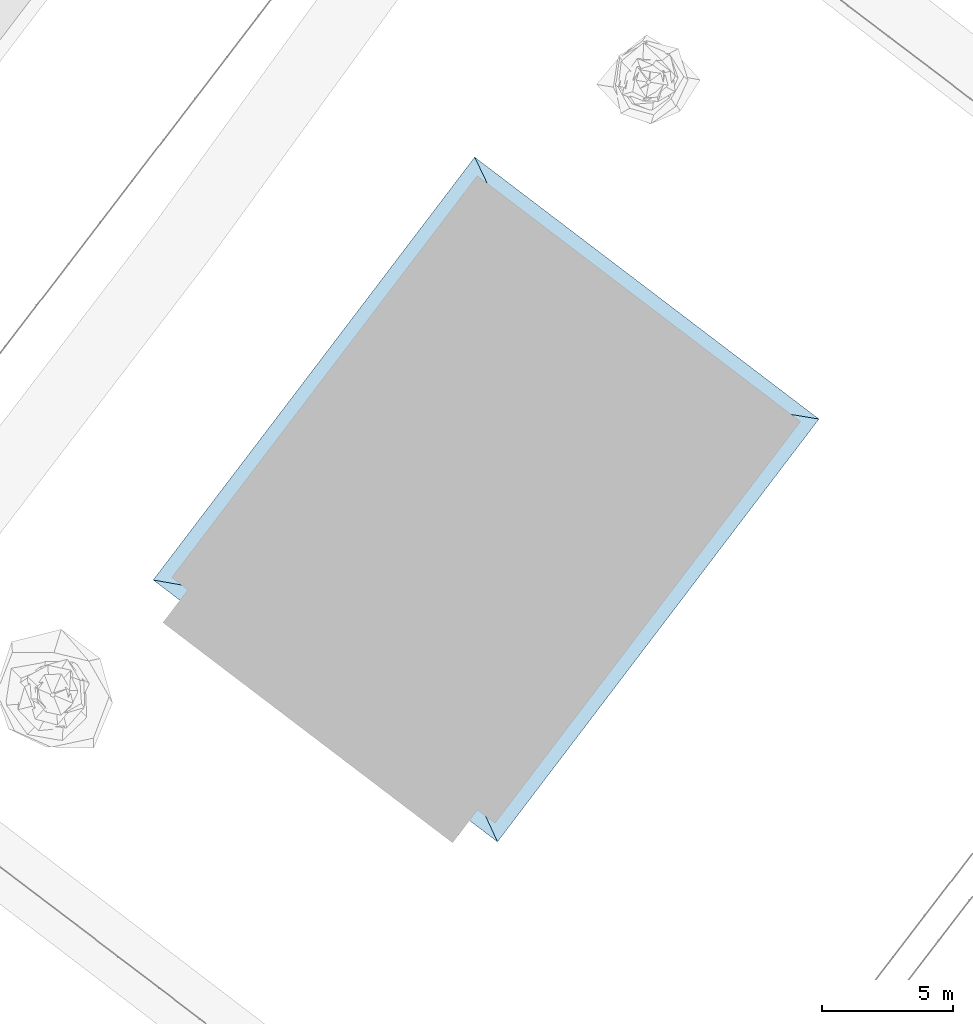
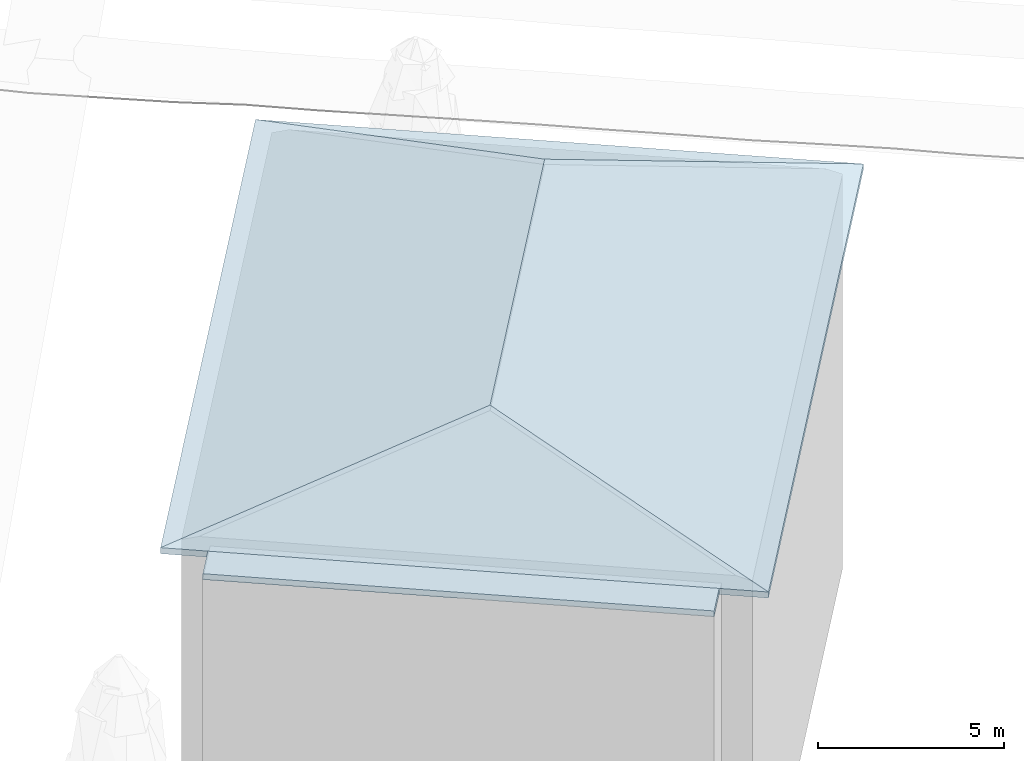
# Not in any storey, part 10 of 88: 1 roof.
"""IFC4 building model written with IfcOpenShell, lengths in metres."""

from ifc_helpers import new_model, si_unit, origin_with_axes, place, context, subcontext, project, spatial, faceted_brep, element, save


model = new_model("IFC4")

# Units and contexts
model_context = context("Model", 3, precision=1e-05, world=origin_with_axes())
body_context = subcontext(model_context, "Body", "Model", "MODEL_VIEW")
ifc_project = project(units=[si_unit("LENGTHUNIT", "METRE"), si_unit("AREAUNIT", "SQUARE_METRE"), si_unit("VOLUMEUNIT", "CUBIC_METRE"), si_unit("PLANEANGLEUNIT", "RADIAN")], contexts=[model_context])

# Sites, building
site_1_placement = place(None, origin_with_axes())
site_1 = spatial("IfcSite", under=ifc_project, at=site_1_placement, Name="CH907857693633", CompositionType="ELEMENT")
site_2_placement = place(None, origin_with_axes())
site_2 = spatial("IfcSite", under=site_1, at=site_2_placement, Name="Buildings", CompositionType="ELEMENT")
building_placement = place(None, origin_with_axes())
building = spatial("IfcBuilding", under=site_2, at=building_placement, Name="Building_6D479F88", CompositionType="ELEMENT")

# Roof
roof_placement = place(building_placement, origin_with_axes())
element("IfcRoof", 1, at=roof_placement, inside=building, Name="Building_6D479F88_Roof", PredefinedType="NOTDEFINED", context=body_context, shape_type="Brep", body=[
    faceted_brep([(92.445000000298, 161.032999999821, 17.6897877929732), (86.9210000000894, 165.232999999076, 17.6898877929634), (86.5969999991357, 164.80700000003, 17.6898877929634), (91.7989999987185, 160.182999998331, 17.6897877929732), (86.5969999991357, 164.80700000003, 17.6898877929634), (86.2749999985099, 164.383000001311, 17.6898877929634), (80.7509999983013, 168.583000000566, 17.6898877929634), (86.2749999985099, 164.383000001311, 17.6898877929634), (86.5969999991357, 164.80700000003, 17.6898877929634), (87.9730000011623, 166.614999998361, 17.6898877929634), (83.285000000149, 171.914999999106, 17.6898877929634), (81.6110000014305, 169.717000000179, 17.6898877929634), (81.6110000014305, 169.717000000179, 17.6898877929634), (87.1350000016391, 165.515000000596, 17.6898877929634), (87.9730000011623, 166.614999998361, 17.6898877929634), (94.3330000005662, 163.515000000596, 17.6897877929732), (88.8090000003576, 167.714999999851, 17.6898877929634), (87.9730000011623, 166.614999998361, 17.6898877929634), (86.5969999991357, 164.80700000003, 17.6898877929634), (81.3969999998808, 169.432999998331, 17.6898877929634), (80.7509999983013, 168.583000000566, 17.6898877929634), (83.285000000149, 171.914999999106, 17.6898877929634), (87.9730000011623, 166.614999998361, 17.6898877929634), (88.8090000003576, 167.714999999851, 17.6898877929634), (87.9730000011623, 166.614999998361, 17.6898877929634), (92.6590000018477, 161.315000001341, 17.6897877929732), (94.3330000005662, 163.515000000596, 17.6897877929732), (86.5969999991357, 164.80700000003, 17.6898877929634), (91.7989999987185, 160.182999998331, 17.6897877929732), (92.445000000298, 161.032999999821, 17.6897877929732), (92.6590000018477, 161.315000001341, 17.6897877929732), (87.9730000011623, 166.614999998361, 17.6898877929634), (87.1350000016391, 165.515000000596, 17.6898877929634), (81.3969999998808, 169.432999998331, 17.6898877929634), (86.5969999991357, 164.80700000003, 17.6898877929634), (86.9210000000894, 165.232999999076, 17.6898877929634), (88.8090000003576, 167.714999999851, 17.5918877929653), (94.3330000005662, 163.515000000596, 17.491887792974), (88.8090000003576, 167.714999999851, 17.491887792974), (88.8090000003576, 167.714999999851, 17.5918877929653), (88.8090000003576, 167.714999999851, 17.6898877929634), (94.3330000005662, 163.515000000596, 17.6897877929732), (94.3330000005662, 163.515000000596, 17.491887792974), (88.8090000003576, 167.714999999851, 17.5918877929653), (94.3330000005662, 163.515000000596, 17.6897877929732), (88.8090000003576, 167.714999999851, 17.5918877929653), (83.285000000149, 171.914999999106, 17.6898877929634), (88.8090000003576, 167.714999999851, 17.6898877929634), (83.285000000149, 171.914999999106, 17.6898877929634), (88.8090000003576, 167.714999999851, 17.5918877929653), (83.285000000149, 171.914999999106, 17.491887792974), (88.8090000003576, 167.714999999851, 17.5918877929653), (88.8090000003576, 167.714999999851, 17.491887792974), (83.285000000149, 171.914999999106, 17.491887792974), (81.3969999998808, 169.432999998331, 17.491887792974), (81.6110000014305, 169.717000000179, 17.6898877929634), (83.285000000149, 171.914999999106, 17.491887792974), (81.6110000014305, 169.717000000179, 17.6898877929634), (83.285000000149, 171.914999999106, 17.6898877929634), (83.285000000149, 171.914999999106, 17.491887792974), (80.7509999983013, 168.583000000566, 17.6898877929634), (81.3969999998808, 169.432999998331, 17.6898877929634), (80.7509999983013, 168.583000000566, 17.491887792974), (81.3969999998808, 169.432999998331, 17.491887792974), (80.7509999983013, 168.583000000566, 17.491887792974), (81.3969999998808, 169.432999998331, 17.6898877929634), (86.2749999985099, 164.383000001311, 17.491887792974), (86.2749999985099, 164.383000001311, 17.5918877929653), (80.7509999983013, 168.583000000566, 17.491887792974), (80.7509999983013, 168.583000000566, 17.6898877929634), (86.2749999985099, 164.383000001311, 17.5918877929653), (86.2749999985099, 164.383000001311, 17.6898877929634), (91.7989999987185, 160.182999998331, 17.491887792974), (86.2749999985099, 164.383000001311, 17.5918877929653), (86.2749999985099, 164.383000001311, 17.491887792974), (86.2749999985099, 164.383000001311, 17.5918877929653), (80.7509999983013, 168.583000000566, 17.6898877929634), (80.7509999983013, 168.583000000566, 17.491887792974), (86.2749999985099, 164.383000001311, 17.6898877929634), (86.2749999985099, 164.383000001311, 17.5918877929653), (91.7989999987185, 160.182999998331, 17.6897877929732), (86.2749999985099, 164.383000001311, 17.5918877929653), (91.7989999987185, 160.182999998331, 17.491887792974), (91.7989999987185, 160.182999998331, 17.6897877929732), (91.7989999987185, 160.182999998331, 17.491887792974), (92.445000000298, 161.032999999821, 17.491887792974), (92.445000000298, 161.032999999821, 17.6897877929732), (92.445000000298, 161.032999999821, 17.6897877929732), (91.7989999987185, 160.182999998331, 17.6897877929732), (91.7989999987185, 160.182999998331, 17.491887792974), (94.3330000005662, 163.515000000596, 17.491887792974), (92.6590000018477, 161.315000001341, 17.6897877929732), (92.445000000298, 161.032999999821, 17.491887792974), (94.3330000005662, 163.515000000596, 17.6897877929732), (92.6590000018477, 161.315000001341, 17.6897877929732), (94.3330000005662, 163.515000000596, 17.491887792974), (91.7989999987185, 160.182999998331, 17.491887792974), (86.5969999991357, 164.80700000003, 17.491887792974), (92.445000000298, 161.032999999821, 17.491887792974), (86.9210000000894, 165.232999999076, 17.491887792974), (81.3969999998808, 169.432999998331, 17.491887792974), (87.8649999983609, 166.473000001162, 17.491887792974), (87.8649999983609, 166.473000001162, 17.491887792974), (92.445000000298, 161.032999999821, 17.491887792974), (86.9210000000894, 165.232999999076, 17.491887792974), (88.8090000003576, 167.714999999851, 17.491887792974), (94.3330000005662, 163.515000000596, 17.491887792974), (87.8649999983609, 166.473000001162, 17.491887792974), (86.5969999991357, 164.80700000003, 17.491887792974), (91.7989999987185, 160.182999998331, 17.491887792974), (86.2749999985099, 164.383000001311, 17.491887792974), (87.8649999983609, 166.473000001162, 17.491887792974), (83.285000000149, 171.914999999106, 17.491887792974), (88.8090000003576, 167.714999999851, 17.491887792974), (86.2749999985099, 164.383000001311, 17.491887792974), (80.7509999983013, 168.583000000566, 17.491887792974), (86.5969999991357, 164.80700000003, 17.491887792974), (86.5969999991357, 164.80700000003, 17.491887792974), (81.3969999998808, 169.432999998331, 17.491887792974), (86.9210000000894, 165.232999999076, 17.491887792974), (86.9210000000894, 165.232999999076, 17.491887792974), (92.445000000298, 161.032999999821, 17.491887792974), (86.5969999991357, 164.80700000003, 17.491887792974), (83.285000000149, 171.914999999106, 17.491887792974), (87.8649999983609, 166.473000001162, 17.491887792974), (81.3969999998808, 169.432999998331, 17.491887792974), (92.445000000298, 161.032999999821, 17.491887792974), (87.8649999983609, 166.473000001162, 17.491887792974), (94.3330000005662, 163.515000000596, 17.491887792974), (81.3969999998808, 169.432999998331, 17.491887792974), (86.5969999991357, 164.80700000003, 17.491887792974), (80.7509999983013, 168.583000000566, 17.491887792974), (80.3790000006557, 170.208999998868, 17.6898877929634), (81.3969999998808, 169.432999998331, 17.6898877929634), (89.6689999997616, 168.559000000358, 20.1236877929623), (81.3969999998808, 169.432999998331, 17.6898877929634), (86.9210000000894, 165.232999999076, 17.6898877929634), (89.6689999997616, 168.559000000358, 20.1236877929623), (92.445000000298, 161.032999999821, 17.6897877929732), (89.6689999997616, 168.559000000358, 20.1236877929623), (86.9210000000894, 165.232999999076, 17.6898877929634), (92.445000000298, 161.032999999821, 17.6897877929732), (93.5109999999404, 160.221000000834, 17.6897877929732), (89.6689999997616, 168.559000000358, 20.1236877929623), (80.3790000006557, 170.208999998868, 17.6898877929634), (89.6689999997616, 168.559000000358, 20.1236877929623), (86.5109999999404, 178.27100000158, 17.6898877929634), (96.7129999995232, 177.820999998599, 20.1236877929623), (91.1550000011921, 177.447000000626, 18.9077877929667), (93.1909999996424, 173.190999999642, 20.1236877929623), (105.772999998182, 176.346999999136, 17.6897877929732), (96.7129999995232, 177.820999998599, 20.1236877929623), (99.6429999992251, 168.285000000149, 17.6897877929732), (89.6689999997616, 168.559000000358, 20.1236877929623), (95.1130000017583, 169.022999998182, 18.907687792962), (93.1909999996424, 173.190999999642, 20.1236877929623), (92.6409999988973, 186.335000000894, 17.6898877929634), (96.7129999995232, 177.820999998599, 20.1236877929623), (99.2069999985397, 181.340999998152, 17.6897877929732), (80.3790000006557, 170.208999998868, 17.6898877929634), (80.3790000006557, 170.208999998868, 17.491887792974), (81.3969999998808, 169.432999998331, 17.6898877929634), (81.3969999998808, 169.432999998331, 17.491887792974), (81.3969999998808, 169.432999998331, 17.6898877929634), (80.3790000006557, 170.208999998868, 17.491887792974), (93.5109999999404, 160.221000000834, 17.491887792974), (92.445000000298, 161.032999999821, 17.6897877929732), (92.445000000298, 161.032999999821, 17.491887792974), (92.445000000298, 161.032999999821, 17.6897877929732), (93.5109999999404, 160.221000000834, 17.491887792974), (93.5109999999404, 160.221000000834, 17.6897877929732), (93.5109999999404, 160.221000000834, 17.491887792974), (99.6429999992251, 168.285000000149, 17.491887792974), (99.6429999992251, 168.285000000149, 17.5917877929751), (93.5109999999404, 160.221000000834, 17.6897877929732), (99.6429999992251, 168.285000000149, 17.5917877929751), (99.6429999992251, 168.285000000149, 17.6897877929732), (105.772999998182, 176.346999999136, 17.6897877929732), (99.6429999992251, 168.285000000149, 17.6897877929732), (99.6429999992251, 168.285000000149, 17.5917877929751), (99.6429999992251, 168.285000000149, 17.5917877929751), (105.772999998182, 176.346999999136, 17.4917877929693), (105.772999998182, 176.346999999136, 17.6897877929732), (105.772999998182, 176.346999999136, 17.4917877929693), (99.6429999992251, 168.285000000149, 17.5917877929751), (99.6429999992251, 168.285000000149, 17.491887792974), (99.6429999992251, 168.285000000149, 17.5917877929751), (93.5109999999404, 160.221000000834, 17.6897877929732), (93.5109999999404, 160.221000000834, 17.491887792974), (99.2069999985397, 181.340999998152, 17.5917877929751), (105.772999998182, 176.346999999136, 17.4917877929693), (99.2069999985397, 181.340999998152, 17.491887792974), (99.2069999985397, 181.340999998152, 17.5917877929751), (99.2069999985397, 181.340999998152, 17.6897877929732), (105.772999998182, 176.346999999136, 17.6897877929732), (105.772999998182, 176.346999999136, 17.4917877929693), (99.2069999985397, 181.340999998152, 17.5917877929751), (105.772999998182, 176.346999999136, 17.6897877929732), (99.2069999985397, 181.340999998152, 17.5917877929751), (92.6409999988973, 186.335000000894, 17.6898877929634), (99.2069999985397, 181.340999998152, 17.6897877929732), (92.6409999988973, 186.335000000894, 17.6898877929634), (99.2069999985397, 181.340999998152, 17.5917877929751), (92.6409999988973, 186.335000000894, 17.491887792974), (99.2069999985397, 181.340999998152, 17.5917877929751), (99.2069999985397, 181.340999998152, 17.491887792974), (92.6409999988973, 186.335000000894, 17.491887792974), (92.6409999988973, 186.335000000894, 17.491887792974), (86.5109999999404, 178.27100000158, 17.5918877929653), (92.6409999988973, 186.335000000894, 17.6898877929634), (86.5109999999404, 178.27100000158, 17.5918877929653), (92.6409999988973, 186.335000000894, 17.491887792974), (86.5109999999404, 178.27100000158, 17.491887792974), (86.5109999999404, 178.27100000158, 17.6898877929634), (92.6409999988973, 186.335000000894, 17.6898877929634), (86.5109999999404, 178.27100000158, 17.5918877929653), (86.5109999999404, 178.27100000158, 17.491887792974), (80.3790000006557, 170.208999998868, 17.491887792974), (86.5109999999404, 178.27100000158, 17.5918877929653), (80.3790000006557, 170.208999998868, 17.6898877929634), (86.5109999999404, 178.27100000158, 17.5918877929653), (80.3790000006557, 170.208999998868, 17.491887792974), (86.5109999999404, 178.27100000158, 17.5918877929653), (80.3790000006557, 170.208999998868, 17.6898877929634), (86.5109999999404, 178.27100000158, 17.6898877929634), (80.3790000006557, 170.208999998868, 17.491887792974), (89.6689999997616, 168.559000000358, 19.9236877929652), (81.6110000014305, 169.717000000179, 17.6898877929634), (80.3790000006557, 170.208999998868, 17.491887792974), (81.6110000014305, 169.717000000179, 17.6898877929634), (81.3969999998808, 169.432999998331, 17.491887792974), (89.6689999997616, 168.559000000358, 19.9236877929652), (93.5109999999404, 160.221000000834, 17.491887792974), (92.6590000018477, 161.315000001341, 17.6897877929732), (89.6689999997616, 168.559000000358, 19.9236877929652), (92.6590000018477, 161.315000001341, 17.6897877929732), (87.1350000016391, 165.515000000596, 17.6898877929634), (87.1350000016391, 165.515000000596, 17.6898877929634), (81.6110000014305, 169.717000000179, 17.6898877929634), (89.6689999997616, 168.559000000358, 19.9236877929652), (93.5109999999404, 160.221000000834, 17.491887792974), (92.445000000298, 161.032999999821, 17.491887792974), (92.6590000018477, 161.315000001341, 17.6897877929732), (92.6409999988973, 186.335000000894, 17.491887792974), (96.7129999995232, 177.820999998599, 19.9236877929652), (91.1550000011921, 177.447000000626, 18.7077877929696), (89.6689999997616, 168.559000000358, 19.9236877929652), (86.5109999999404, 178.27100000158, 17.491887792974), (91.1550000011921, 177.447000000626, 18.7077877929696), (93.5109999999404, 160.221000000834, 17.491887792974), (89.6689999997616, 168.559000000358, 19.9236877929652), (95.1130000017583, 169.022999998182, 18.7077877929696), (96.7129999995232, 177.820999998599, 19.9236877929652), (99.6429999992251, 168.285000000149, 17.491887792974), (95.1130000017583, 169.022999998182, 18.7077877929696), (105.772999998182, 176.346999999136, 17.4917877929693), (96.7129999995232, 177.820999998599, 19.9236877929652), (99.2069999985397, 181.340999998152, 17.491887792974), (92.6409999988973, 186.335000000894, 17.6898877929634), (86.5109999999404, 178.27100000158, 17.6898877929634), (91.1550000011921, 177.447000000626, 18.9077877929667), (89.6689999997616, 168.559000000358, 19.9236877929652), (80.3790000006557, 170.208999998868, 17.491887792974), (86.5109999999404, 178.27100000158, 17.491887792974), (93.5109999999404, 160.221000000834, 17.6897877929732), (99.6429999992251, 168.285000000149, 17.6897877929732), (95.1130000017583, 169.022999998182, 18.907687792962), (96.7129999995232, 177.820999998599, 19.9236877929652), (105.772999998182, 176.346999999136, 17.4917877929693), (99.6429999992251, 168.285000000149, 17.491887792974), (86.5109999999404, 178.27100000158, 17.6898877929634), (89.6689999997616, 168.559000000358, 20.1236877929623), (91.1550000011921, 177.447000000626, 18.9077877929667), (96.7129999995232, 177.820999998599, 20.1236877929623), (92.6409999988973, 186.335000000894, 17.6898877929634), (91.1550000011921, 177.447000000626, 18.9077877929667), (89.6689999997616, 168.559000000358, 19.9236877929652), (91.1550000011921, 177.447000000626, 18.7077877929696), (93.1909999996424, 173.190999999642, 19.9236877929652), (86.5109999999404, 178.27100000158, 17.491887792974), (92.6409999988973, 186.335000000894, 17.491887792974), (91.1550000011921, 177.447000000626, 18.7077877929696), (99.6429999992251, 168.285000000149, 17.6897877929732), (96.7129999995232, 177.820999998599, 20.1236877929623), (95.1130000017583, 169.022999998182, 18.907687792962), (89.6689999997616, 168.559000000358, 20.1236877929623), (93.5109999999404, 160.221000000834, 17.6897877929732), (95.1130000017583, 169.022999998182, 18.907687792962), (96.7129999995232, 177.820999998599, 19.9236877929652), (95.1130000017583, 169.022999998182, 18.7077877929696), (93.1909999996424, 173.190999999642, 19.9236877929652), (99.6429999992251, 168.285000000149, 17.491887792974), (93.5109999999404, 160.221000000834, 17.491887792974), (95.1130000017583, 169.022999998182, 18.7077877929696), (96.7129999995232, 177.820999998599, 20.1236877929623), (105.772999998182, 176.346999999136, 17.6897877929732), (99.2069999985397, 181.340999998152, 17.6897877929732), (96.7129999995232, 177.820999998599, 19.9236877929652), (92.6409999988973, 186.335000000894, 17.491887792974), (99.2069999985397, 181.340999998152, 17.491887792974), (91.1550000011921, 177.447000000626, 18.9077877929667), (89.6689999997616, 168.559000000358, 20.1236877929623), (93.1909999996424, 173.190999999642, 20.1236877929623), (95.1130000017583, 169.022999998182, 18.907687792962), (96.7129999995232, 177.820999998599, 20.1236877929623), (93.1909999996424, 173.190999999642, 20.1236877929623), (91.1550000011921, 177.447000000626, 18.7077877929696), (96.7129999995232, 177.820999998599, 19.9236877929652), (93.1909999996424, 173.190999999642, 19.9236877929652), (95.1130000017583, 169.022999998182, 18.7077877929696), (89.6689999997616, 168.559000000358, 19.9236877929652), (93.1909999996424, 173.190999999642, 19.9236877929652)], [[[0, 1, 2]], [[3, 4, 5]], [[6, 7, 8]], [[9, 10, 11]], [[12, 13, 14]], [[15, 16, 17]], [[18, 19, 20]], [[21, 22, 23]], [[24, 25, 26]], [[27, 28, 29]], [[30, 31, 32]], [[33, 34, 35]], [[36, 37, 38]], [[39, 40, 41]], [[42, 43, 44]], [[45, 46, 47]], [[48, 49, 50]], [[51, 52, 53]], [[54, 55, 56]], [[57, 58, 59]], [[60, 61, 62]], [[63, 64, 65]], [[66, 67, 68]], [[69, 70, 71]], [[72, 73, 74]], [[75, 76, 77]], [[78, 79, 80]], [[81, 82, 83]], [[84, 85, 86]], [[87, 88, 89]], [[90, 91, 92]], [[93, 94, 95]], [[96, 97, 98]], [[99, 100, 101]], [[102, 103, 104]], [[105, 106, 107]], [[108, 109, 110]], [[111, 112, 113]], [[114, 115, 116]], [[117, 118, 119]], [[120, 121, 122]], [[123, 124, 125]], [[126, 127, 128]], [[129, 130, 131]], [[132, 133, 134]], [[135, 136, 137]], [[138, 139, 140]], [[141, 142, 143]], [[144, 145, 146]], [[147, 148, 149]], [[150, 151, 152]], [[153, 154, 155]], [[156, 157, 158]], [[159, 160, 161]], [[162, 163, 164]], [[165, 166, 167]], [[168, 169, 170]], [[171, 172, 173]], [[174, 175, 176]], [[177, 178, 179]], [[180, 181, 182]], [[183, 184, 185]], [[186, 187, 188]], [[189, 190, 191]], [[192, 193, 194]], [[195, 196, 197]], [[198, 199, 200]], [[201, 202, 203]], [[204, 205, 206]], [[207, 208, 209]], [[210, 211, 212]], [[213, 214, 215]], [[216, 217, 218]], [[219, 220, 221]], [[222, 223, 224]], [[225, 226, 227]], [[228, 229, 230]], [[231, 232, 233]], [[234, 235, 236]], [[237, 238, 239]], [[240, 241, 242]], [[243, 244, 245]], [[246, 247, 248]], [[249, 250, 251]], [[252, 253, 254]], [[255, 256, 257]], [[258, 259, 260]], [[261, 262, 263]], [[264, 265, 266]], [[267, 268, 269]], [[270, 271, 272]], [[273, 274, 275]], [[276, 277, 278]], [[279, 280, 281]], [[282, 283, 284]], [[285, 286, 287]], [[288, 289, 290]], [[291, 292, 293]], [[294, 295, 296]], [[297, 298, 299]], [[300, 301, 302]], [[303, 304, 305]], [[306, 307, 308]], [[309, 310, 311]]]),
])

save(model, "model.ifc")
